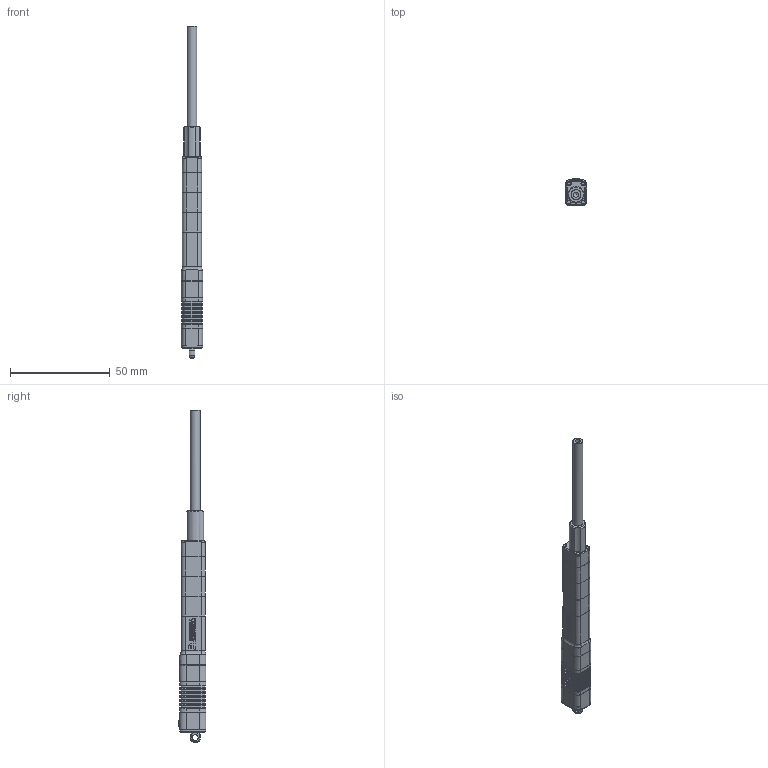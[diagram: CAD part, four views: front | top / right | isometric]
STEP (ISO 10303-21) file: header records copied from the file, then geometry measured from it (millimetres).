
FILE_DESCRIPTION (( 'STEP AP203' ), '1' );
FILE_NAME ('LA50-0x3D-1201.STEP', '2023-12-01T09:09:52', ( '' ), ( '' ), '' );
FILE_SCHEMA (( 'CONFIG_CONTROL_DESIGN' ));
Length unit declared in the file: millimetre
Products named in the file (4): ACBO-S30; A820150-015芢裝-俋楷; LA50-0x3D-1201; 錨璃54^LA50-0x3D-俋楷
Assembly tree (3 placements, depth 2):
  LA50-0x3D-1201
    A820150-015芢裝-俋楷
    ACBO-S30
    錨璃54^LA50-0x3D-俋楷
Bounding box: 10.8 x 14 x 166.7 mm (x, y, z)
Volume: 12348.4 mm3; surface area: 7513.3 mm2
Topology: 3 solids, 7 shells, 1716 faces, 4405 edges, 2825 vertices
Faces by surface type: plane 957, bspline 568, cylinder 125, cone 53, torus 13
Full cylindrical faces by diameter (mm): 1.7 x2, 2 x2, 2.17 x5, 2.2 x4, 2.4 x1, 2.5 x1, 3 x1, 4 x2, 5 x2
Entity records: 65660 total; most frequent: CARTESIAN_POINT 27762, ORIENTED_EDGE 8732, DIRECTION 5804, EDGE_CURVE 4366, VECTOR 2836, LINE 2836, VERTEX_POINT 2810, EDGE_LOOP 1866
